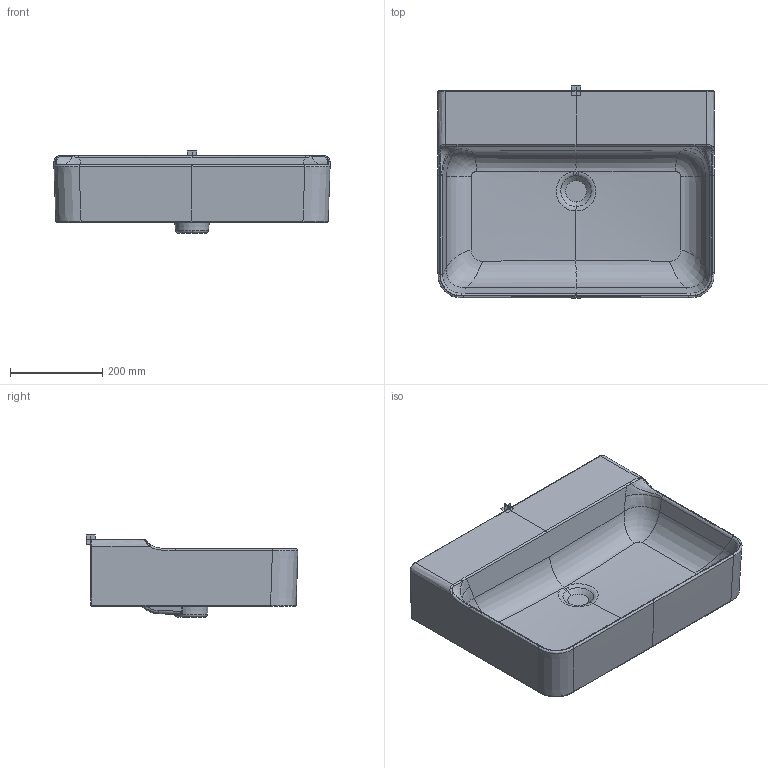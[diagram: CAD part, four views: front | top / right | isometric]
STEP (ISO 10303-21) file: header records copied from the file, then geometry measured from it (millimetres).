
FILE_DESCRIPTION((''),'2;1');
FILE_NAME('T3691_MK1_3DPL','2019-06-19T',('RibentsovV'),('AMERICAN STANDARD B&K'),'CREO PARAMETRIC BY PTC INC, 2016130','CREO PARAMETRIC BY PTC INC, 2016130','');
FILE_SCHEMA(('CONFIG_CONTROL_DESIGN'));
Length unit declared in the file: millimetre
Products named in the file (1): T3691_MK1_3DPL
Bounding box: 600 x 460.07 x 178 mm (x, y, z)
Volume: 19892366.3 mm3; surface area: 906021.6 mm2
Topology: 1 solids, 4 shells, 110 faces, 262 edges, 158 vertices
Faces by surface type: bspline 82, plane 13, cylinder 8, cone 3, torus 2, extrusion 2
Entity records: 18899 total; most frequent: CARTESIAN_POINT 16920, ORIENTED_EDGE 512, EDGE_CURVE 262, DIRECTION 206, B_SPLINE_CURVE_WITH_KNOTS 168, VERTEX_POINT 158, EDGE_LOOP 111, FACE_OUTER_BOUND 110
